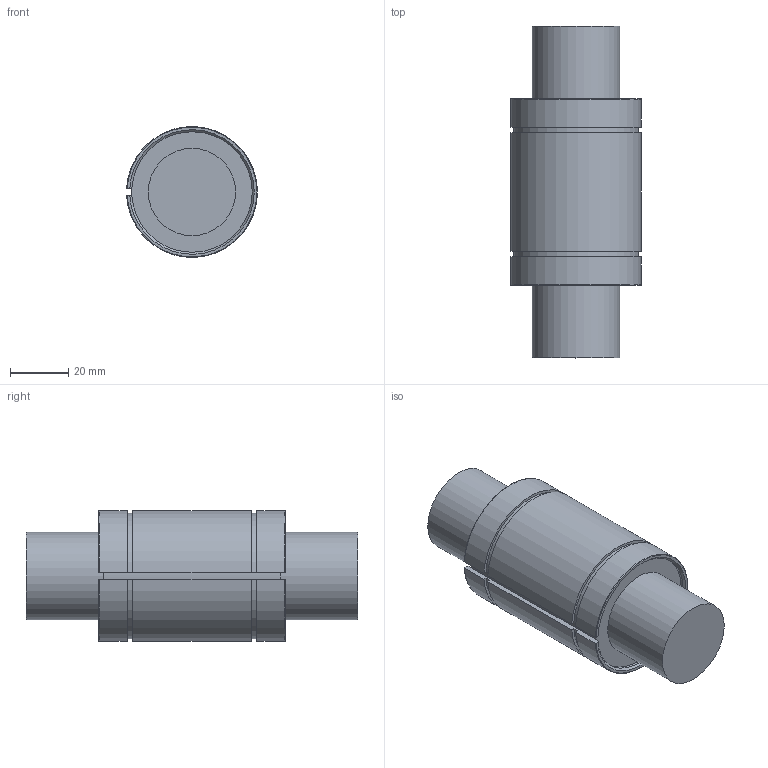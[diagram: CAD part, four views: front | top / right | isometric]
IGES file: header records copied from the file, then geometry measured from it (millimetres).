
Global section: file name: No Iges File Name specified; native system: Autodesk Inventor 2012; preprocessor: AutoDesk Inventor Iges Exporter R2012; author: user2; date: 20130206.101701; units: millimetre
Bounding box: 44.97 x 114 x 44.98 mm (x, y, z)
Volume: 134228.8 mm3; surface area: 18248.6 mm2
Topology: 1 solids, 1 shells, 26 faces, 64 edges, 42 vertices
Faces by surface type: plane 12, cylinder 8, revolution 4, torus 2
Full cylindrical faces by diameter (mm): 30 x2
